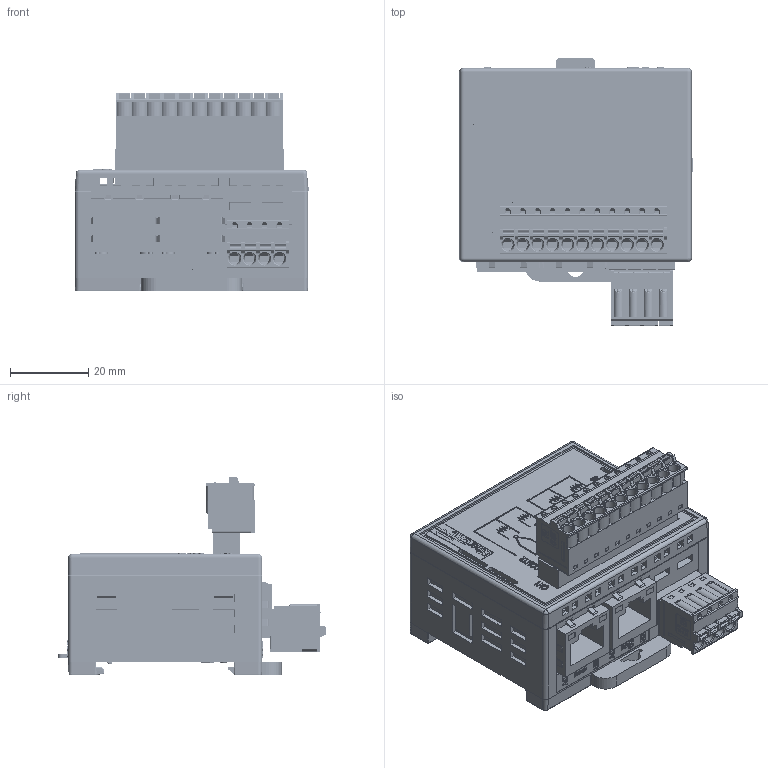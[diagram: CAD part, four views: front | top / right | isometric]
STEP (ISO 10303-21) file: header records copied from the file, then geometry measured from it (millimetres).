
FILE_DESCRIPTION((''),'2;1');
FILE_NAME('ECCBT40-W','2026-05-27T14:12:48',('gijyu181'),(''),'CREO PARAMETRIC BY PTC INC, 2018050','CREO PARAMETRIC BY PTC INC, 2018050','');
FILE_SCHEMA(('CONFIG_CONTROL_DESIGN','SHAPE_APPEARANCE_LAYERS_GROUPS'));
Products named in the file (1): ECCBT40-W
Bounding box: 59.75 x 68.55 x 50.7 mm (x, y, z)
Volume: 71522.7 mm3; surface area: 45654.5 mm2
Topology: 1 solids, 40 shells, 9236 faces, 25883 edges, 17068 vertices
Faces by surface type: plane 6530, cylinder 1224, extrusion 1144, cone 184, sphere 74, torus 56, bspline 24
Entity records: 391116 total; most frequent: CARTESIAN_POINT 72949, ORIENTED_EDGE 51065, DIRECTION 42370, EDGE_CURVE 25869, VECTOR 21304, LINE 20160, PRESENTATION_STYLE_ASSIGNMENT 17624, VERTEX_POINT 17068
